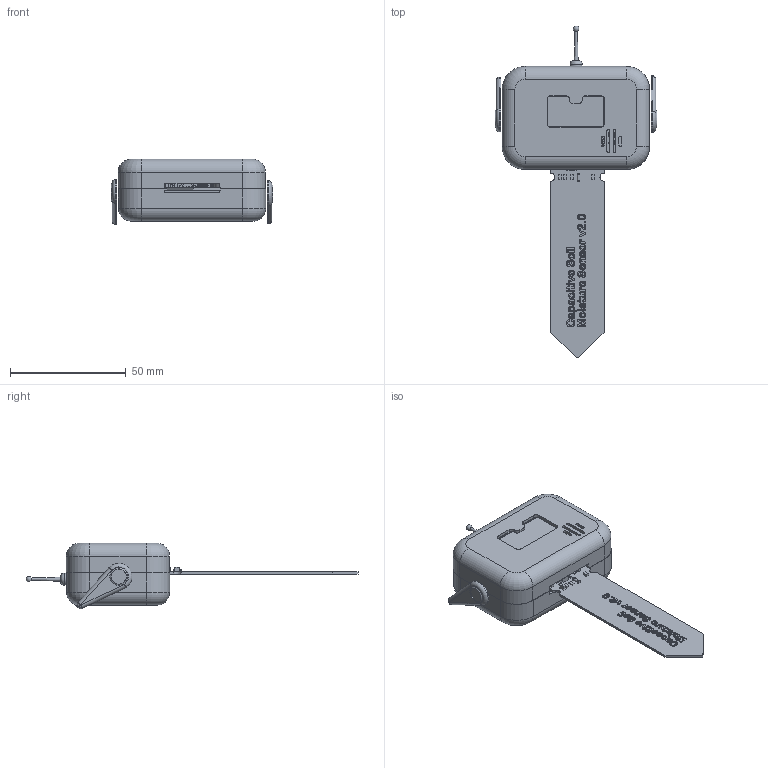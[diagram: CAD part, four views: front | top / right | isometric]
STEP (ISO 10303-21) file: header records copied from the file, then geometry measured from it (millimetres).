
FILE_DESCRIPTION(/* description */ ('STEP AP242 Edition 2','CAx-IF Rec.Pracs.---Representation and Presentation of Product Manufacturing Information (PMI)---4.0---2014-10-13','CAx-IF Rec.Pracs.---3D Tessellated Geometry---0.4---2014-09-14','2;1','CAx-IF Rec.Pracs.---User Defined Attributes---1.5---2016-08-15'),/* implementation_level */ '2;1');
FILE_NAME(/* name */ '6b01e43ea1660bf03afc699a',/* time_stamp */ '2026-11-21T18:34:48Z',/* author */ (''),/* organization */ (''),/* preprocessor_version */ 'ST-DEVELOPER v20',/* originating_system */ 'ONSHAPE BY PTC INC, 1.224',/* authorisation */ ' ');
FILE_SCHEMA (('AP242_MANAGED_MODEL_BASED_3D_ENGINEERING_MIM_LF { 1 0 10303 442 3 1 4 }'));
Products named in the file (375): Assembly 1; Body20; Body56; Body271; Body5; Part 5; Body227; Body2; Body45; Body51; XIAO ESP32S3 PLUS_V1.0_241025_PCB:1__Body39; BOSS-EXTRUDE14_12_:1__Body1; Body272; Body35; Body144; Body38; Body183; Body200; XIAO ESP32S3 PLUS_V1.0_241025_PCB:1__Body46; Body61; Body73; BOSS-EXTRUDE14_9_:1__Body1; Body186; Part 3; Body230; Body184; Body53; Body191; Body24; Body197; Body292; Body58; Body249; Body100; Body105; Body11; Body47; Body121; Body308; BOSS-EXTRUDE7_7_:1__Body1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
Assembly tree (379 placements, depth 2):
  Assembly 1
    Body20
    Body56
    Body271
    Body5
    Part 5
    Body227
    Body2
    Body45
    Body51
    XIAO ESP32S3 PLUS_V1.0_241025_PCB:1__Body39
    BOSS-EXTRUDE14_12_:1__Body1
    Body272
    Body35
    Body144
    Body38
    Body183
    Body200
    XIAO ESP32S3 PLUS_V1.0_241025_PCB:1__Body46
    Body61
    Body73
    BOSS-EXTRUDE14_9_:1__Body1
    Body186
    Part 3
    Body230
    Body184
    Body53
    Body191
    Body24
    Body197
    Body292
    Body58
    Body249
    Body100
    Body105
    Body11
    Body47
    Body121
    Body308
    BOSS-EXTRUDE7_7_:1__Body1
    Body136
    BOSS-EXTRUDE14_5_:1__Body1
    Body134
    Body45
    Body279
    Pins:1__Body4  x2
    Body55
    Body288
    Body36
    BOSS-EXTRUDE7_3_:1__Body1
    Body112
    Pins:1__Body2  x2
    Body132
    Body310
    BOSS-EXTRUDE14_3_:1__Body1
    Body291
    Body205
    Body181
    XIAO ESP32S3 PLUS_V1.0_241025_PCB:1__Body35
    Body185
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Bounding box: 69.8 x 143.16 x 28.22 mm (x, y, z)
Volume: 19484 mm3; surface area: 40971.3 mm2
Topology: 379 solids, 382 shells, 7440 faces, 19765 edges, 13085 vertices
Faces by surface type: plane 4192, cylinder 1732, bspline 1306, cone 106, torus 72, sphere 32
Full cylindrical faces by diameter (mm): 0.5 x3, 0.6 x4, 0.7 x10, 0.8 x2, 0.85 x1, 0.9 x12, 1 x18, 1.016 x3, 1.1 x9, 1.2 x16, 1.72 x1, 1.86 x1, 2 x2, 2.3 x1, 2.4 x1, 2.7 x12, 3 x1, 3.8 x8, 4.5 x1, 5.232 x1, 6.533 x2, 9.7 x2, 11.5 x1, 11.9 x2
Entity records: 253005 total; most frequent: CARTESIAN_POINT 65819, ORIENTED_EDGE 38952, DIRECTION 31851, EDGE_CURVE 19476, VERTEX_POINT 13026, LINE 11823, VECTOR 11823, AXIS2_PLACEMENT_3D 10014
